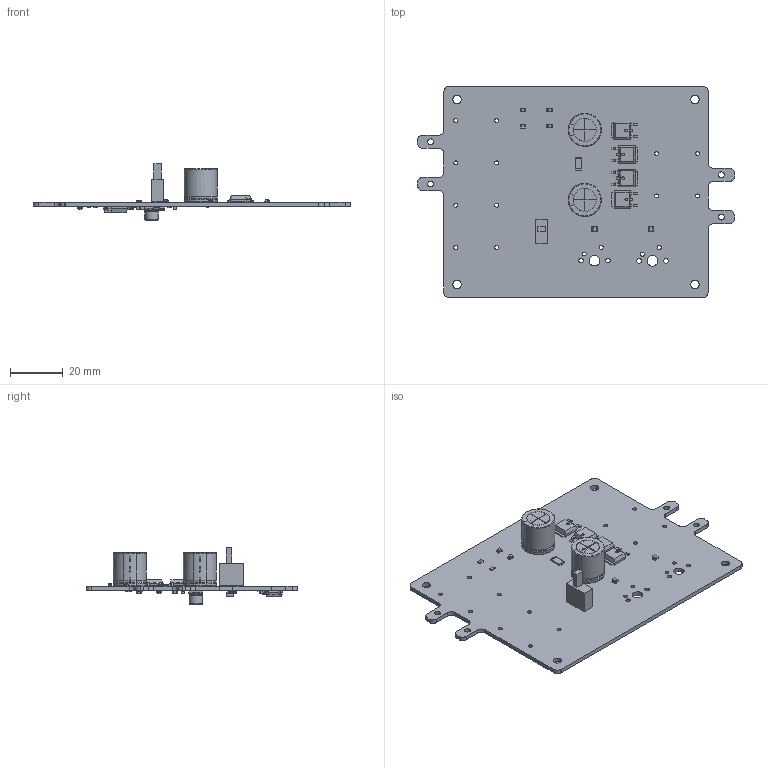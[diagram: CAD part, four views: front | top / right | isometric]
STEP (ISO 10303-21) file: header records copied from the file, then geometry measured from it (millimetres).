
FILE_DESCRIPTION(('KiCad electronic assembly'),'2;1');
FILE_NAME('h_bridge_driver.step','2025-04-11T20:27:27',('Pcbnew'),( 'Kicad'),'Open CASCADE STEP processor 7.8','KiCad to STEP converter' ,'Unknown');
FILE_SCHEMA(('AUTOMOTIVE_DESIGN { 1 0 10303 214 1 1 1 1 }'));
Length unit declared in the file: millimetre
Products named in the file (26): h_bridge_driver 1; TO-252-2; CQ assembly; R_0805_2012Metric; SOT-363_SC-70-6; SOT_363_SC_70_6; CP_Radial_D12.5mm_P5.00mm; CP_Radial_D125mm_P500mm; EG 1248 v1; LED_0805_2012Metric; R_2010_5025Metric; C_0805_2012Metric; SOT-23; SOT_23; D_SMA; SOT-223; SOT_223; CP_Elec_5x5.3; CP_Elec_5x53; _autosave-h_bridge_driver_PCB
Assembly tree (52 placements, depth 3):
  h_bridge_driver 1
    TO-252-2  x5
      CQ assembly
    R_0805_2012Metric  x14
      R_0805_2012Metric
    SOT-363_SC-70-6  x2
      SOT_363_SC_70_6
    CP_Radial_D12.5mm_P5.00mm  x2
      CP_Radial_D125mm_P500mm
    EG 1248 v1
      EG 1248 v1
    LED_0805_2012Metric  x2
      LED_0805_2012Metric
    R_2010_5025Metric
      R_2010_5025Metric
    C_0805_2012Metric  x7
      C_0805_2012Metric
    SOT-23  x2
      SOT_23
    D_SMA
      D_SMA
    SOT-223
      SOT_223
    CP_Elec_5x5.3
      CP_Elec_5x53
    _autosave-h_bridge_driver_PCB
Bounding box: 120 x 80 x 21.5 mm (x, y, z)
Volume: 17055.2 mm3; surface area: 21023.3 mm2
Topology: 60 solids, 62 shells, 1870 faces, 4815 edges, 3101 vertices
Faces by surface type: plane 1217, cylinder 476, bspline 156, revolution 13, torus 8
Full cylindrical faces by diameter (mm): 0.8 x3, 0.9 x4, 1 x5, 1.2 x4, 1.3 x2, 1.5 x16, 1.7 x4, 2.2 x4, 3.2 x4, 4 x2, 5 x2
Entity records: 27640 total; most frequent: CARTESIAN_POINT 5335, ORIENTED_EDGE 3804, DIRECTION 3559, EDGE_CURVE 1902, LINE 1340, VECTOR 1340, VERTEX_POINT 1214, AXIS2_PLACEMENT_3D 1106
